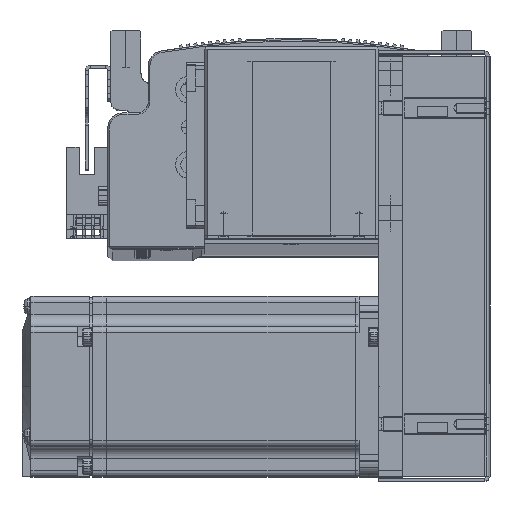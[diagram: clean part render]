
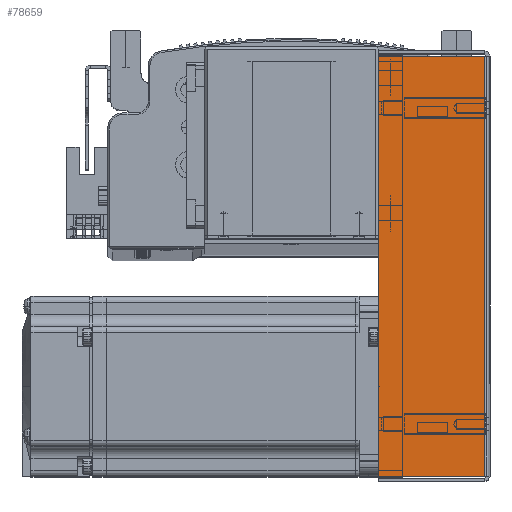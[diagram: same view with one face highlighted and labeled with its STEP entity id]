
A CAD part, top view. The second image highlights one B-rep face of the part: STEP entity #78659.
In plain terms, the highlighted planar face has unit normal (0, 0, 1).
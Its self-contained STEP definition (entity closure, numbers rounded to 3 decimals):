
#15967 = VERTEX_POINT ( 'NONE', #63368 ) ;
#15995 = VERTEX_POINT ( 'NONE', #62114 ) ;
#16008 = VERTEX_POINT ( 'NONE', #62216 ) ;
#16032 = VERTEX_POINT ( 'NONE', #58025 ) ;
#16328 = EDGE_CURVE ( 'NONE', #15967, #15995, #92444, .T. ) ;
#16346 = EDGE_CURVE ( 'NONE', #15995, #16032, #92372, .T. ) ;
#16388 = EDGE_CURVE ( 'NONE', #15967, #16008, #92452, .T. ) ;
#16513 = EDGE_CURVE ( 'NONE', #16008, #16032, #92579, .T. ) ;
#37116 = ORIENTED_EDGE ( 'NONE', *, *, #16388, .F. ) ;
#37143 = ORIENTED_EDGE ( 'NONE', *, *, #16328, .T. ) ;
#37154 = ORIENTED_EDGE ( 'NONE', *, *, #16346, .T. ) ;
#37168 = ORIENTED_EDGE ( 'NONE', *, *, #16513, .F. ) ;
#55758 = DIRECTION ( 'NONE',  ( 0., 1., 0. ) ) ;
#55791 = CARTESIAN_POINT ( 'NONE',  ( 69.793, 0., 33.5 ) ) ;
#55821 = CARTESIAN_POINT ( 'NONE',  ( 0., 36., 33.5 ) ) ;
#55841 = DIRECTION ( 'NONE',  ( -1., 0., 0. ) ) ;
#55848 = DIRECTION ( 'NONE',  ( -1., 0., 0. ) ) ;
#55862 = CARTESIAN_POINT ( 'NONE',  ( -71.5, 0.737, 33.5 ) ) ;
#56050 = DIRECTION ( 'NONE',  ( 0., 1., 0. ) ) ;
#56069 = CARTESIAN_POINT ( 'NONE',  ( -69.793, 0., 33.5 ) ) ;
#58025 = CARTESIAN_POINT ( 'NONE',  ( -69.793, 36., 33.5 ) ) ;
#60163 = EDGE_LOOP ( 'NONE', ( #37116, #37143, #37154, #37168 ) ) ;
#62114 = CARTESIAN_POINT ( 'NONE',  ( 69.793, 36., 33.5 ) ) ;
#62216 = CARTESIAN_POINT ( 'NONE',  ( -69.793, 0.737, 33.5 ) ) ;
#63368 = CARTESIAN_POINT ( 'NONE',  ( 69.793, 0.737, 33.5 ) ) ;
#68777 = FACE_OUTER_BOUND ( 'NONE', #60163, .T. ) ;
#78659 = ADVANCED_FACE ( 'NONE', ( #68777 ), #83072, .F. ) ;
#83031 = DIRECTION ( 'NONE',  ( 0., 0., -1. ) ) ;
#83072 = PLANE ( 'NONE',  #83968 ) ;
#83077 = CARTESIAN_POINT ( 'NONE',  ( 0., 0., 33.5 ) ) ;
#83102 = DIRECTION ( 'NONE',  ( -1., 0., 0. ) ) ;
#83968 = AXIS2_PLACEMENT_3D ( 'NONE', #83077, #83031, #83102 ) ;
#92372 = LINE ( 'NONE', #55821, #92388 ) ;
#92388 = VECTOR ( 'NONE', #55841, 1000. ) ;
#92432 = VECTOR ( 'NONE', #55848, 1000. ) ;
#92444 = LINE ( 'NONE', #55791, #92457 ) ;
#92452 = LINE ( 'NONE', #55862, #92432 ) ;
#92457 = VECTOR ( 'NONE', #55758, 1000. ) ;
#92536 = VECTOR ( 'NONE', #56050, 1000. ) ;
#92579 = LINE ( 'NONE', #56069, #92536 ) ;
